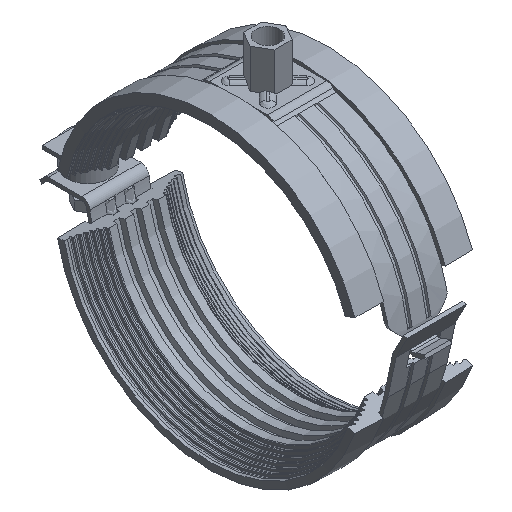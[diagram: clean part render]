
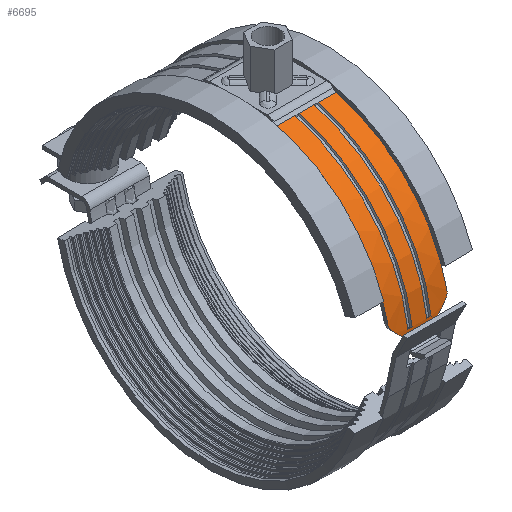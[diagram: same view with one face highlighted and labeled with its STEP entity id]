
A CAD part, isometric view. The second image highlights one B-rep face of the part: STEP entity #6695.
In plain terms, the highlighted cylindrical face has radius 64.6 mm (diameter 129.2 mm), a partial arc.
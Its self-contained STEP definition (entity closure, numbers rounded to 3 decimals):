
#177=B_SPLINE_CURVE_WITH_KNOTS('',3,(#11597,#11598,#11599,#11600,#11601,
#11602),.UNSPECIFIED.,.F.,.F.,(4,2,4),(0.86,0.942,
1.131),.UNSPECIFIED.);
#179=B_SPLINE_CURVE_WITH_KNOTS('',3,(#11613,#11614,#11615,#11616,#11617,
#11618),.UNSPECIFIED.,.F.,.F.,(4,2,4),(1.885,2.074,
2.157),.UNSPECIFIED.);
#181=B_SPLINE_CURVE_WITH_KNOTS('',3,(#11635,#11636,#11637,#11638,#11639,
#11640),.UNSPECIFIED.,.F.,.F.,(4,2,4),(0.612,0.765,
0.917),.UNSPECIFIED.);
#182=B_SPLINE_CURVE_WITH_KNOTS('',3,(#11644,#11645,#11646,#11647,#11648,
#11649),.UNSPECIFIED.,.F.,.F.,(4,2,4),(0.302,0.454,
0.608),.UNSPECIFIED.);
#203=ELLIPSE('',#7437,91.358,64.6);
#204=ELLIPSE('',#7441,91.358,64.6);
#291=CYLINDRICAL_SURFACE('',#7445,64.6);
#673=CIRCLE('',#7341,64.6);
#674=CIRCLE('',#7342,64.6);
#677=CIRCLE('',#7348,64.6);
#678=CIRCLE('',#7349,64.6);
#725=CIRCLE('',#7443,64.6);
#726=CIRCLE('',#7446,64.6);
#1053=FACE_OUTER_BOUND('',#1407,.T.);
#1407=EDGE_LOOP('',(#5827,#5828,#5829,#5830,#5831,#5832,#5833,#5834,#5835,
#5836,#5837,#5838,#5839,#5840,#5841,#5842,#5843,#5844));
#1833=LINE('',#11147,#2336);
#1841=LINE('',#11182,#2344);
#1889=LINE('',#11460,#2392);
#1890=LINE('',#11464,#2393);
#1891=LINE('',#11465,#2394);
#1910=LINE('',#11650,#2413);
#2336=VECTOR('',#9150,1.776);
#2344=VECTOR('',#9172,1.776);
#2392=VECTOR('',#9330,7.612);
#2393=VECTOR('',#9335,7.612);
#2394=VECTOR('',#9336,6.224);
#2413=VECTOR('',#9433,11.237);
#2956=VERTEX_POINT('',#11130);
#2957=VERTEX_POINT('',#11132);
#2958=VERTEX_POINT('',#11141);
#2959=VERTEX_POINT('',#11143);
#2964=VERTEX_POINT('',#11165);
#2965=VERTEX_POINT('',#11167);
#2966=VERTEX_POINT('',#11176);
#2967=VERTEX_POINT('',#11178);
#3010=VERTEX_POINT('',#11459);
#3011=VERTEX_POINT('',#11462);
#3023=VERTEX_POINT('',#11577);
#3024=VERTEX_POINT('',#11579);
#3026=VERTEX_POINT('',#11584);
#3028=VERTEX_POINT('',#11604);
#3030=VERTEX_POINT('',#11612);
#3032=VERTEX_POINT('',#11627);
#3033=VERTEX_POINT('',#11631);
#3034=VERTEX_POINT('',#11642);
#3835=EDGE_CURVE('',#2956,#2957,#673,.T.);
#3837=EDGE_CURVE('',#2959,#2958,#674,.T.);
#3839=EDGE_CURVE('',#2957,#2959,#1833,.T.);
#3847=EDGE_CURVE('',#2964,#2965,#677,.T.);
#3849=EDGE_CURVE('',#2967,#2966,#678,.T.);
#3851=EDGE_CURVE('',#2965,#2967,#1841,.T.);
#3931=EDGE_CURVE('',#3010,#2956,#1889,.T.);
#3934=EDGE_CURVE('',#2966,#3011,#1890,.T.);
#3935=EDGE_CURVE('',#2958,#2964,#1891,.T.);
#3964=EDGE_CURVE('',#3024,#3023,#203,.T.);
#3969=EDGE_CURVE('',#3026,#3024,#177,.T.);
#3971=EDGE_CURVE('',#3030,#3028,#179,.T.);
#3976=EDGE_CURVE('',#3032,#3030,#204,.T.);
#3978=EDGE_CURVE('',#3010,#3033,#725,.T.);
#3979=EDGE_CURVE('',#3033,#3023,#181,.T.);
#3980=EDGE_CURVE('',#3034,#3011,#726,.T.);
#3981=EDGE_CURVE('',#3032,#3034,#182,.T.);
#3982=EDGE_CURVE('',#3026,#3028,#1910,.T.);
#5827=ORIENTED_EDGE('',*,*,#3837,.T.);
#5828=ORIENTED_EDGE('',*,*,#3935,.T.);
#5829=ORIENTED_EDGE('',*,*,#3847,.T.);
#5830=ORIENTED_EDGE('',*,*,#3851,.T.);
#5831=ORIENTED_EDGE('',*,*,#3849,.T.);
#5832=ORIENTED_EDGE('',*,*,#3934,.T.);
#5833=ORIENTED_EDGE('',*,*,#3980,.F.);
#5834=ORIENTED_EDGE('',*,*,#3981,.F.);
#5835=ORIENTED_EDGE('',*,*,#3976,.T.);
#5836=ORIENTED_EDGE('',*,*,#3971,.T.);
#5837=ORIENTED_EDGE('',*,*,#3982,.F.);
#5838=ORIENTED_EDGE('',*,*,#3969,.T.);
#5839=ORIENTED_EDGE('',*,*,#3964,.T.);
#5840=ORIENTED_EDGE('',*,*,#3979,.F.);
#5841=ORIENTED_EDGE('',*,*,#3978,.F.);
#5842=ORIENTED_EDGE('',*,*,#3931,.T.);
#5843=ORIENTED_EDGE('',*,*,#3835,.T.);
#5844=ORIENTED_EDGE('',*,*,#3839,.T.);
#6695=ADVANCED_FACE('',(#1053),#291,.T.);
#7341=AXIS2_PLACEMENT_3D('',#11134,#9142,#9143);
#7342=AXIS2_PLACEMENT_3D('',#11144,#9145,#9146);
#7348=AXIS2_PLACEMENT_3D('',#11169,#9164,#9165);
#7349=AXIS2_PLACEMENT_3D('',#11179,#9167,#9168);
#7437=AXIS2_PLACEMENT_3D('',#11580,#9407,#9408);
#7441=AXIS2_PLACEMENT_3D('',#11629,#9420,#9421);
#7443=AXIS2_PLACEMENT_3D('',#11633,#9425,#9426);
#7445=AXIS2_PLACEMENT_3D('',#11641,#9429,#9430);
#7446=AXIS2_PLACEMENT_3D('',#11643,#9431,#9432);
#9142=DIRECTION('center_axis',(1.,0.,0.));
#9143=DIRECTION('ref_axis',(0.,-0.253,0.968));
#9145=DIRECTION('center_axis',(-1.,0.,0.));
#9146=DIRECTION('ref_axis',(0.,-0.253,0.968));
#9150=DIRECTION('',(-1.,0.,0.));
#9164=DIRECTION('center_axis',(1.,0.,0.));
#9165=DIRECTION('ref_axis',(0.,-0.253,0.968));
#9167=DIRECTION('center_axis',(-1.,0.,0.));
#9168=DIRECTION('ref_axis',(0.,-0.253,0.968));
#9172=DIRECTION('',(-1.,0.,0.));
#9330=DIRECTION('',(-1.,0.,0.));
#9335=DIRECTION('',(-1.,0.,0.));
#9336=DIRECTION('',(-1.,0.,0.));
#9407=DIRECTION('center_axis',(-0.707,0.,0.707));
#9408=DIRECTION('ref_axis',(-0.707,0.,-0.707));
#9420=DIRECTION('center_axis',(0.707,0.,0.707));
#9421=DIRECTION('ref_axis',(0.707,0.,-0.707));
#9425=DIRECTION('center_axis',(1.,0.,0.));
#9426=DIRECTION('ref_axis',(0.,0.253,-0.968));
#9429=DIRECTION('center_axis',(1.,0.,0.));
#9430=DIRECTION('ref_axis',(0.,0.253,-0.968));
#9431=DIRECTION('center_axis',(-1.,0.,0.));
#9432=DIRECTION('ref_axis',(0.,0.253,-0.968));
#9433=DIRECTION('',(-1.,0.,0.));
#11130=CARTESIAN_POINT('',(4.888,-16.323,62.504));
#11132=CARTESIAN_POINT('',(4.888,-64.08,8.183));
#11134=CARTESIAN_POINT('Origin',(4.888,0.,
0.));
#11141=CARTESIAN_POINT('',(3.112,-16.323,62.504));
#11143=CARTESIAN_POINT('',(3.112,-64.08,8.183));
#11144=CARTESIAN_POINT('Origin',(3.112,0.,
0.));
#11147=CARTESIAN_POINT('',(0.,-64.08,8.183));
#11165=CARTESIAN_POINT('',(-3.112,-16.323,62.504));
#11167=CARTESIAN_POINT('',(-3.112,-64.08,8.183));
#11169=CARTESIAN_POINT('Origin',(-3.112,0.,
0.));
#11176=CARTESIAN_POINT('',(-4.888,-16.323,62.504));
#11178=CARTESIAN_POINT('',(-4.888,-64.08,8.183));
#11179=CARTESIAN_POINT('Origin',(-4.888,0.,
0.));
#11182=CARTESIAN_POINT('',(0.,-64.08,8.183));
#11459=CARTESIAN_POINT('',(12.5,-16.323,62.504));
#11460=CARTESIAN_POINT('',(0.,-16.323,62.504));
#11462=CARTESIAN_POINT('',(-12.5,-16.323,62.504));
#11464=CARTESIAN_POINT('',(0.,-16.323,62.504));
#11465=CARTESIAN_POINT('',(0.,-16.323,62.504));
#11577=CARTESIAN_POINT('',(11.328,-63.713,10.668));
#11579=CARTESIAN_POINT('',(6.964,-64.292,6.304));
#11580=CARTESIAN_POINT('Origin',(0.66,0.,0.));
#11584=CARTESIAN_POINT('',(5.618,-64.485,3.851));
#11597=CARTESIAN_POINT('Ctrl Pts',(5.618,-64.485,3.851));
#11598=CARTESIAN_POINT('Ctrl Pts',(5.681,-64.468,4.134));
#11599=CARTESIAN_POINT('Ctrl Pts',(5.769,-64.45,4.414));
#11600=CARTESIAN_POINT('Ctrl Pts',(6.137,-64.385,5.3));
#11601=CARTESIAN_POINT('Ctrl Pts',(6.521,-64.335,5.861));
#11602=CARTESIAN_POINT('Ctrl Pts',(6.964,-64.292,6.304));
#11604=CARTESIAN_POINT('',(-5.618,-64.485,3.851));
#11612=CARTESIAN_POINT('',(-6.964,-64.292,6.304));
#11613=CARTESIAN_POINT('Ctrl Pts',(-6.964,-64.292,
6.304));
#11614=CARTESIAN_POINT('Ctrl Pts',(-6.521,-64.335,
5.861));
#11615=CARTESIAN_POINT('Ctrl Pts',(-6.137,-64.385,
5.3));
#11616=CARTESIAN_POINT('Ctrl Pts',(-5.769,-64.45,4.414));
#11617=CARTESIAN_POINT('Ctrl Pts',(-5.681,-64.468,
4.134));
#11618=CARTESIAN_POINT('Ctrl Pts',(-5.618,-64.485,
3.851));
#11627=CARTESIAN_POINT('',(-11.328,-63.713,10.668));
#11629=CARTESIAN_POINT('Origin',(-0.66,0.,0.));
#11631=CARTESIAN_POINT('',(12.5,-63.174,13.497));
#11633=CARTESIAN_POINT('Origin',(12.5,0.,0.));
#11635=CARTESIAN_POINT('Ctrl Pts',(12.5,-63.174,13.497));
#11636=CARTESIAN_POINT('Ctrl Pts',(12.5,-63.281,12.996));
#11637=CARTESIAN_POINT('Ctrl Pts',(12.4,-63.389,12.461));
#11638=CARTESIAN_POINT('Ctrl Pts',(11.992,-63.575,11.475));
#11639=CARTESIAN_POINT('Ctrl Pts',(11.685,-63.653,11.025));
#11640=CARTESIAN_POINT('Ctrl Pts',(11.328,-63.713,10.668));
#11641=CARTESIAN_POINT('Origin',(0.,0.,0.));
#11642=CARTESIAN_POINT('',(-12.5,-63.174,13.497));
#11643=CARTESIAN_POINT('Origin',(-12.5,0.,0.));
#11644=CARTESIAN_POINT('Ctrl Pts',(-11.328,-63.713,10.668));
#11645=CARTESIAN_POINT('Ctrl Pts',(-11.685,-63.653,
11.025));
#11646=CARTESIAN_POINT('Ctrl Pts',(-11.992,-63.575,
11.475));
#11647=CARTESIAN_POINT('Ctrl Pts',(-12.4,-63.389,
12.461));
#11648=CARTESIAN_POINT('Ctrl Pts',(-12.5,-63.281,12.996));
#11649=CARTESIAN_POINT('Ctrl Pts',(-12.5,-63.174,13.497));
#11650=CARTESIAN_POINT('',(0.,-64.485,3.851));
